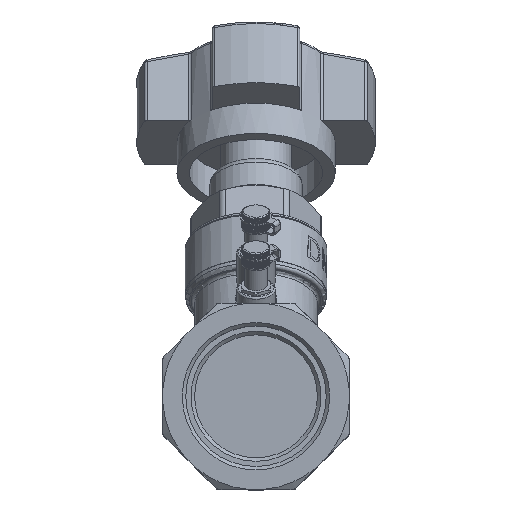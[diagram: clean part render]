
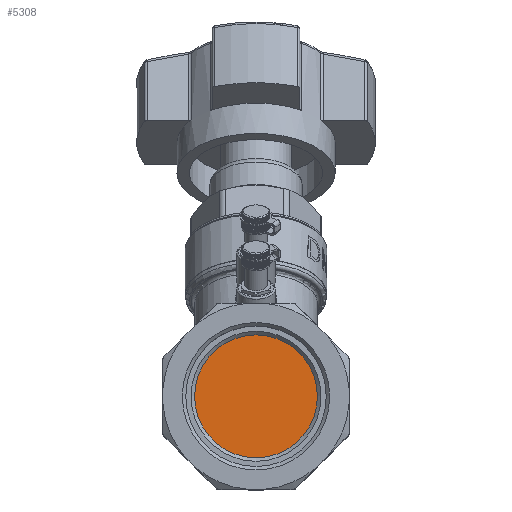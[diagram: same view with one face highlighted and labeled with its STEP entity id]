
A CAD part, top view. The second image highlights one B-rep face of the part: STEP entity #5308.
In plain terms, the highlighted planar face has unit normal (0, 0, 1).
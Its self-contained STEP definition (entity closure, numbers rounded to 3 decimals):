
#5308=ADVANCED_FACE('',(#17638),#17640,.T.);
#17638=FACE_BOUND('',#17639,.T.);
#17639=EDGE_LOOP('',(#26346));
#17640=PLANE('',#17641);
#17641=AXIS2_PLACEMENT_3D('',#17642,#17643,#17644);
#17642=CARTESIAN_POINT('',(0.,0.,37.219));
#17643=DIRECTION('',(0.,0.,1.));
#17644=DIRECTION('',(1.,0.,0.));
#26346=ORIENTED_EDGE('',*,*,#31519,.F.);
#31519=EDGE_CURVE('',#36049,#36049,#36050,.T.);
#36049=VERTEX_POINT('',#61501);
#36050=CIRCLE('',#61502,17.5);
#61501=CARTESIAN_POINT('',(17.5,0.,37.219));
#61502=AXIS2_PLACEMENT_3D('',#61503,#61504,#61505);
#61503=CARTESIAN_POINT('',(0.,0.,37.219));
#61504=DIRECTION('',(0.,0.,-1.));
#61505=DIRECTION('',(1.,0.,0.));
